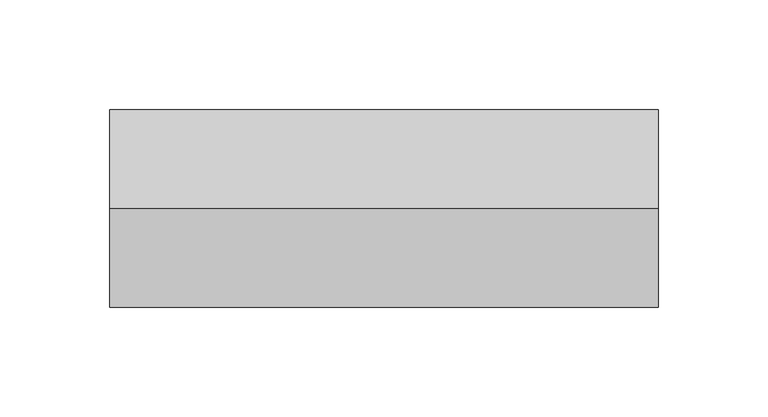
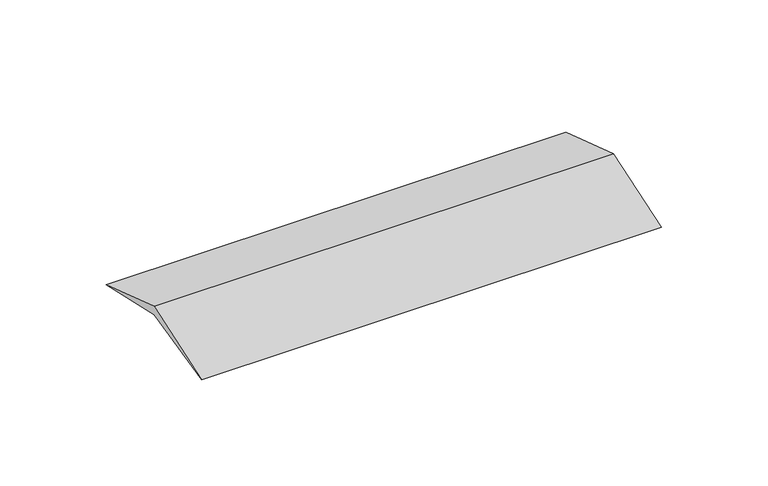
"""IFC4 building model written with IfcOpenShell, lengths in millimetres: cable carrier fitting geometry, КНС_НакладкаНаСтыкФронтальныхКрышекКоробов_ILF_DKC : Накладка на стык фронтальных крышек коробов."""

from ifc_helpers import new_model, si_unit, frame, origin, place, context, project, spatial, polyline, outline, extrude, source, transform, mapped, element, save


def cable_carrier_fitting_b6f63aa2(model_context):
    return source(origin(), model_context, "Body", "SweptSolid", [
        extrude(outline(polyline([(0.0, 35.0), (-45.0, 25.0), (0.0, 40.0), (45.0, 25.0), (0.0, 35.0)])), frame((-125.0, 0.0, 0.0), z_axis=(1.0, 0.0, 0.0), x_axis=(0.0, 1.0, 0.0)), (0.0, 0.0, 1.0), 250.0),
    ])


if __name__ == "__main__":
    model = new_model("IFC4")
    model_context = context("Model", 3, world=origin())
    ifc_project = project(units=[si_unit("LENGTHUNIT", "METRE", prefix="MILLI")], contexts=[model_context])
    site = spatial("IfcSite", under=ifc_project)
    building = spatial("IfcBuilding", under=site)
    placement = place(None, origin())
    cable_carrier_fitting_shape = cable_carrier_fitting_b6f63aa2(model_context)
    element("IfcCableCarrierFitting", 1, ObjectType="КНС_НакладкаНаСтыкФронтальныхКрышекКоробов_ILF_DKC : Накладка на стык фронтальных крышек коробов", at=placement, inside=building, context=model_context, shape_type="MappedRepresentation", body=[
        mapped(cable_carrier_fitting_shape, transform((0.0, 0.0, 0.0), x_axis=(1.0, 0.0, 0.0), y_axis=(0.0, 1.0, 0.0), z_axis=(0.0, 0.0, 1.0))),
    ])
    save(model, "model.ifc")
